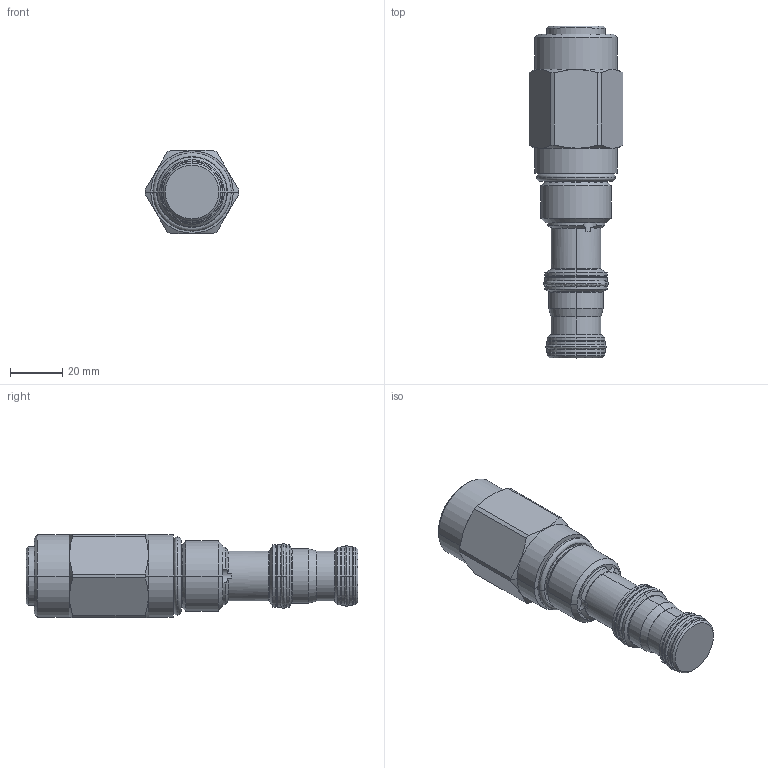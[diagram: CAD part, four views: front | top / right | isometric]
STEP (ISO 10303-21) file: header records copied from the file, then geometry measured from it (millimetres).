
FILE_DESCRIPTION((''),'2;1');
FILE_NAME('PRT0014','2009-03-25T',('JCS'),(''),'PRO/ENGINEER BY PARAMETRIC TECHNOLOGY CORPORATION, 2008510','PRO/ENGINEER BY PARAMETRIC TECHNOLOGY CORPORATION, 2008510','');
FILE_SCHEMA(('CONFIG_CONTROL_DESIGN'));
Length unit declared in the file: inch
Products named in the file (1): PRT0014
Bounding box: 35.81 x 126.81 x 31.75 mm (x, y, z)
Volume: 73116.8 mm3; surface area: 14787.5 mm2
Topology: 4 solids, 4 shells, 155 faces, 337 edges, 192 vertices
Faces by surface type: cylinder 48, cone 35, torus 29, revolution 24, plane 19
Entity records: 5194 total; most frequent: CARTESIAN_POINT 1724, DIRECTION 772, ORIENTED_EDGE 674, EDGE_CURVE 337, AXIS2_PLACEMENT_3D 328, CIRCLE 197, VERTEX_POINT 192, EDGE_LOOP 163
